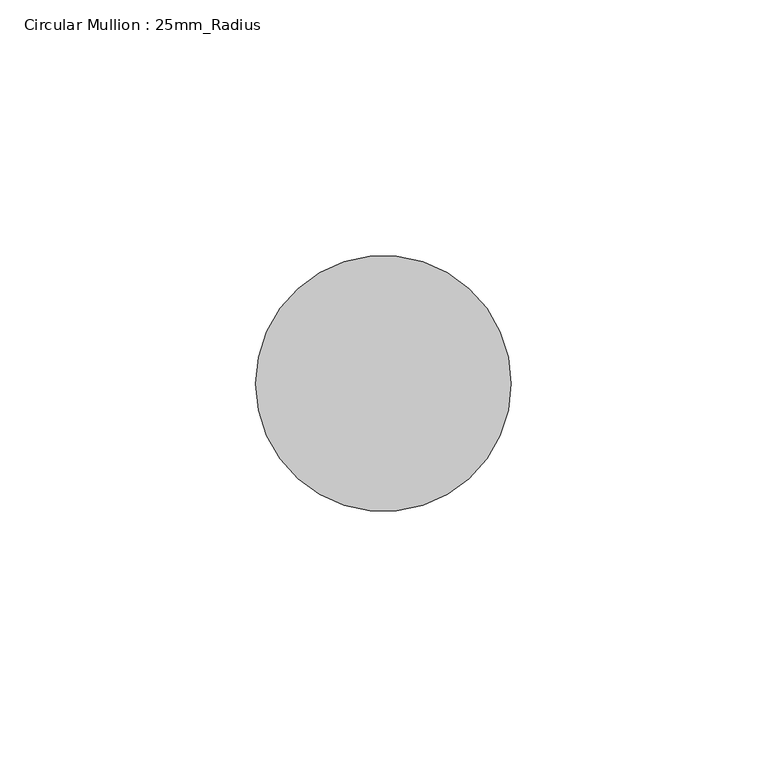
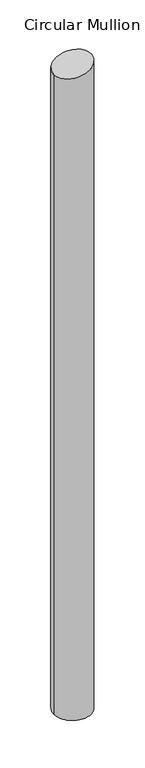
"""IFC4 building model written with IfcOpenShell, lengths in millimetres: member geometry, Circular Mullion : 25mm_Radius."""

import ifcopenshell
import ifcopenshell.guid

model = None  # the IFC model being written
_history = None  # IfcOwnerHistory: only IFC2X3 demands one
_inside = {}  # id of a spatial element -> (the spatial element, [elements in it])
_under = {}  # id of a project, library or spatial element -> (it, [spatial elements below it])
_declared = {}  # id of a project -> (the project, [libraries it declares])
_typed = {}  # id of a type object -> (the type object, [elements of that type])
_made_of = {}  # id of a material, layer set ... -> (it, [elements and type objects made of it])


def new_model(schema):
    """Start an empty IFC model of exactly this schema.

    Asked for "IFC4X3", IfcOpenShell would pick the latest addendum, in which some entities
    have other attributes; the version numbers below select the first issue.
    IFC2X3 requires an IfcOwnerHistory on every rooted entity: one is made here for all.
    """
    global model, _history
    if schema == "IFC4X3":
        model = ifcopenshell.file(schema_version=(4, 3, 0, 0))
    else:
        model = ifcopenshell.file(schema=schema)
    _inside.clear()
    _under.clear()
    _declared.clear()
    _typed.clear()
    _made_of.clear()
    _history = None
    if model.schema == "IFC2X3":
        org = make("IfcOrganization", Name="unknown")
        user = make(
            "IfcPersonAndOrganization",
            ThePerson=make("IfcPerson", FamilyName="unknown"),
            TheOrganization=org,
        )
        app = make(
            "IfcApplication",
            ApplicationDeveloper=org,
            Version="unknown",
            ApplicationFullName="unknown",
            ApplicationIdentifier="unknown",
        )
        _history = make(
            "IfcOwnerHistory",
            OwningUser=user,
            OwningApplication=app,
            ChangeAction="ADDED",
            CreationDate=0,
        )
    return model


def make(cls, **values):
    """One entity of the class cls with the attributes given. An attribute that is None is left unset."""
    return model.create_entity(
        cls, **{name: value for name, value in values.items() if value is not None}
    )


def rooted(cls, **values):
    """An entity with a GlobalId (a new one), such as an element, a storey or a relation."""
    return make(cls, GlobalId=ifcopenshell.guid.new(), OwnerHistory=_history, **values)


def si_unit(unit_type, name, prefix=None):
    """IfcSIUnit, for example si_unit("LENGTHUNIT", "METRE", prefix="MILLI")."""
    return make("IfcSIUnit", UnitType=unit_type, Prefix=prefix, Name=name)


def assignment(units):
    """IfcUnitAssignment: the units of a project."""
    return None if units is None else make("IfcUnitAssignment", Units=units)


def point(xyz):
    """IfcCartesianPoint."""
    return None if xyz is None else make("IfcCartesianPoint", Coordinates=xyz)


def direction(xyz):
    """IfcDirection."""
    return None if xyz is None else make("IfcDirection", DirectionRatios=xyz)


def frame(location, z_axis=None, x_axis=None):
    """IfcAxis2Placement3D, a coordinate frame: its origin and axes. An axis left out is left unset."""
    return make(
        "IfcAxis2Placement3D",
        Location=point(location),
        Axis=direction(z_axis),
        RefDirection=direction(x_axis),
    )


def origin():
    """The frame at (0, 0, 0) with its axes left unset."""
    return frame((0.0, 0.0, 0.0))


def place(relative_to, where):
    """IfcLocalPlacement: puts the frame where relative to a parent placement (None: the world)."""
    return make(
        "IfcLocalPlacement", PlacementRelTo=relative_to, RelativePlacement=where
    )


def context(
    kind, dimensions, precision=None, world=None, true_north=None, identifier=None
):
    """IfcGeometricRepresentationContext, for example the 3D "Model" context."""
    return make(
        "IfcGeometricRepresentationContext",
        ContextIdentifier=identifier,
        ContextType=kind,
        CoordinateSpaceDimension=dimensions,
        Precision=precision,
        WorldCoordinateSystem=world,
        TrueNorth=true_north,
    )


def project(units=None, contexts=None):
    """IfcProject with its units and contexts."""
    return rooted(
        "IfcProject",
        Name="project",
        RepresentationContexts=contexts,
        UnitsInContext=assignment(units),
    )


def spatial(cls, under=None, at=None, **own):
    """A site, building, storey or space (cls), placed at a placement, below another one or the project."""
    s = rooted(cls, ObjectPlacement=at, **own)
    if under is not None:
        _under.setdefault(under.id(), (under, []))[1].append(s)
    return s


def circle_curve(where, radius):
    """IfcCircle in the frame where."""
    return make("IfcCircle", Position=where, Radius=radius)


def ellipse_curve(where, semi_axis1, semi_axis2):
    """IfcEllipse in the frame where."""
    return make(
        "IfcEllipse", Position=where, SemiAxis1=semi_axis1, SemiAxis2=semi_axis2
    )


def shape(context_of_items, identifier, shape_type, items):
    """IfcShapeRepresentation: the items that make up one representation, for example the "Body"."""
    return make(
        "IfcShapeRepresentation",
        ContextOfItems=context_of_items,
        RepresentationIdentifier=identifier,
        RepresentationType=shape_type,
        Items=items,
    )


def source(mapping_origin, context_of_items, identifier, shape_type, items):
    """IfcRepresentationMap: a shape defined once, which mapped items show again and again."""
    return make(
        "IfcRepresentationMap",
        MappingOrigin=mapping_origin,
        MappedRepresentation=shape(context_of_items, identifier, shape_type, items),
    )


def transform(
    local_origin,
    x_axis=None,
    y_axis=None,
    z_axis=None,
    scale=None,
    scale2=None,
    scale3=None,
    uniform=True,
):
    """IfcCartesianTransformationOperator3D, or its non-uniform kind. x_axis, y_axis, z_axis: its Axis1, 2, 3."""
    if uniform:
        return make(
            "IfcCartesianTransformationOperator3D",
            Axis1=direction(x_axis),
            Axis2=direction(y_axis),
            LocalOrigin=point(local_origin),
            Scale=scale,
            Axis3=direction(z_axis),
        )
    return make(
        "IfcCartesianTransformationOperator3DnonUniform",
        Axis1=direction(x_axis),
        Axis2=direction(y_axis),
        LocalOrigin=point(local_origin),
        Scale=scale,
        Axis3=direction(z_axis),
        Scale2=scale2,
        Scale3=scale3,
    )


def mapped(mapping_source, mapping_target):
    """IfcMappedItem: shows the shape of a source again, moved by a transform."""
    return make(
        "IfcMappedItem", MappingSource=mapping_source, MappingTarget=mapping_target
    )


def made_of(thing, what):
    """Note that an element or type object is made of a material, layer set ...; save() writes the relation."""
    if what is not None:
        _made_of.setdefault(what.id(), (what, []))[1].append(thing)
    return thing


def element(
    cls,
    number,
    at=None,
    inside=None,
    cuts=None,
    type_object=None,
    material=None,
    context=None,
    identifier="Body",
    shape_type=None,
    held_by="IfcProductDefinitionShape",
    body=None,
    shapes=None,
    **own,
):
    """One element of the class cls, such as IfcWall. Its Tag is "e" and its number.

    at: its placement. inside: the storey or other place that contains it. cuts: it is an
    opening in that element (IfcRelVoidsElement). A single representation is given by context,
    identifier, shape_type and body (its items); several are given by shapes. held_by: the class
    of the entity that holds the representations. save() writes the other relations.
    """
    e = rooted(cls, Tag="e%d" % number, ObjectPlacement=at, **own)
    if body is not None:
        shapes = [shape(context, identifier, shape_type, body)]
    if shapes is not None:
        e.Representation = make(held_by, Representations=shapes)
    if inside is not None:
        _inside.setdefault(inside.id(), (inside, []))[1].append(e)
    if cuts is not None:
        rooted(
            "IfcRelVoidsElement", RelatingBuildingElement=cuts, RelatedOpeningElement=e
        )
    if type_object is not None:
        _typed.setdefault(type_object.id(), (type_object, []))[1].append(e)
    return made_of(e, material)


def aggregate(whole, parts):
    """IfcRelAggregates: a whole, such as a stair, and the parts it consists of."""
    return rooted("IfcRelAggregates", RelatingObject=whole, RelatedObjects=parts)


def save(model, path):
    """Write the relations noted so far, then the file.

    IfcRelAggregates (storeys below a building ...), IfcRelContainedInSpatialStructure (elements
    in a storey), IfcRelDefinesByType, IfcRelAssociatesMaterial and IfcRelDeclares: one each for
    every whole, place, type object, material and project.
    """
    for whole, parts in _under.values():
        aggregate(whole, parts)
    for where, things in _inside.values():
        rooted(
            "IfcRelContainedInSpatialStructure",
            RelatedElements=things,
            RelatingStructure=where,
        )
    for kind, things in _typed.values():
        rooted("IfcRelDefinesByType", RelatedObjects=things, RelatingType=kind)
    for what, things in _made_of.values():
        rooted("IfcRelAssociatesMaterial", RelatedObjects=things, RelatingMaterial=what)
    for by, libraries in _declared.values():
        rooted("IfcRelDeclares", RelatingContext=by, RelatedDefinitions=libraries)
    model.write(path)


def plane_surface(at):
    """IfcPlane: the flat surface through the origin of the frame at, square to its z axis."""
    return make("IfcPlane", Position=at)


def cylinder_surface(at, radius):
    """IfcCylindricalSurface: all points at the distance radius from the z axis of the frame at."""
    return make("IfcCylindricalSurface", Position=at, Radius=radius)


def advanced_brep(points, edges, surfaces, faces):
    """IfcAdvancedBrep: a solid bounded by faces that lie on surfaces and meet in shared edges.

    An edge is (start, end): straight between two places in points (the first is 0);
    or (start, end, curve); or (start, end, curve, False) where it runs against its curve.
    A face is (place in surfaces, loops), or (place, loops, False) where it looks against
    its surface's normal. A loop lists edges by number (the first is 1), with a minus sign
    where the edge is run from its end to its start. The first loop is the outer one.
    """
    corners = [point(p) for p in points]
    vertices = [make("IfcVertexPoint", VertexGeometry=c) for c in corners]
    made = []
    for start, end, *more in edges:
        made.append(
            make(
                "IfcEdgeCurve",
                EdgeStart=vertices[start],
                EdgeEnd=vertices[end],
                EdgeGeometry=more[0] if more else make("IfcPolyline", Points=[corners[start], corners[end]]),
                SameSense=more[1] if len(more) > 1 else True,
            )
        )
    hull = []
    for where, loops, *sense in faces:
        bounds = []
        for j, loop in enumerate(loops):
            ring = [make("IfcOrientedEdge", EdgeElement=made[abs(k) - 1], Orientation=k > 0) for k in loop]
            bounds.append(
                make(
                    "IfcFaceOuterBound" if j == 0 else "IfcFaceBound",
                    Bound=make("IfcEdgeLoop", EdgeList=ring),
                    Orientation=True,
                )
            )
        hull.append(make("IfcAdvancedFace", Bounds=bounds, FaceSurface=surfaces[where], SameSense=sense[0] if sense else True))
    return make("IfcAdvancedBrep", Outer=make("IfcClosedShell", CfsFaces=hull))


def circular_mullion_25mm_radius_513b5c2e(model_context):
    return source(origin(), model_context, "Body", "AdvancedBrep", [
        advanced_brep(
        [(-50.0, 0.0, -12.240473), (0.0, 0.0, 0.0), (0.0, 0.0, -919.291812), (-50.0, 0.0, -919.291812)],
        [
            (0, 1, ellipse_curve(frame((-25.0, 0.0, -6.1202365), z_axis=(0.23778763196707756, 0.0, -0.9713171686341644), x_axis=(0.9713171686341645, 0.0, 0.23778763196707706)), 25.7382458, 25.0)),
            (1, 2),
            (2, 3, circle_curve(frame((-25.0, 0.0, -919.291812), z_axis=(0.0, 0.0, 1.0), x_axis=(1.0, 0.0, 0.0)), 25.0)),
            (3, 0),
            (1, 0, ellipse_curve(frame((-25.0, 0.0, -6.1202365), z_axis=(0.23778763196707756, 0.0, -0.9713171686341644), x_axis=(0.9713171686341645, 0.0, 0.23778763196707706)), 25.7382458, 25.0)),
            (3, 2, circle_curve(frame((-25.0, 0.0, -919.291812), z_axis=(0.0, 0.0, 1.0), x_axis=(1.0, 0.0, 0.0)), 25.0)),
        ],
        [
            cylinder_surface(frame((-25.0, 0.0, 0.0), z_axis=(0.0, 0.0, 1.0), x_axis=(1.0, 0.0, 0.0)), 25.0),
            plane_surface(frame((0.0, -304.8, 0.0), z_axis=(-0.23778763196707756, 0.0, 0.9713171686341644), x_axis=(-0.9713171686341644, 0.0, -0.23778763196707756))),
            plane_surface(frame((-304.8, 0.0, -919.291812), z_axis=(0.0, 0.0, -1.0), x_axis=(0.0, 1.0, 0.0))),
        ],
        [
            (0, [[1, 2, 3, 4]]),
            (0, [[5, -4, 6, -2]]),
            (1, [[-1, -5]]),
            (2, [[-6, -3]]),
        ],
    ),
    ])


if __name__ == "__main__":
    model = new_model("IFC4")
    model_context = context("Model", 3, world=origin())
    ifc_project = project(units=[si_unit("LENGTHUNIT", "METRE", prefix="MILLI")], contexts=[model_context])
    site = spatial("IfcSite", under=ifc_project)
    building = spatial("IfcBuilding", under=site)
    placement = place(None, origin())
    circular_mullion_25mm_radius_shape = circular_mullion_25mm_radius_513b5c2e(model_context)
    element("IfcMember", 1, ObjectType="Circular Mullion : 25mm_Radius", at=placement, inside=building, context=model_context, shape_type="MappedRepresentation", body=[
        mapped(circular_mullion_25mm_radius_shape, transform((0.0, 0.0, 0.0), x_axis=(1.0, 0.0, 0.0), y_axis=(0.0, 1.0, 0.0), z_axis=(0.0, 0.0, 1.0))),
    ])
    save(model, "model.ifc")
